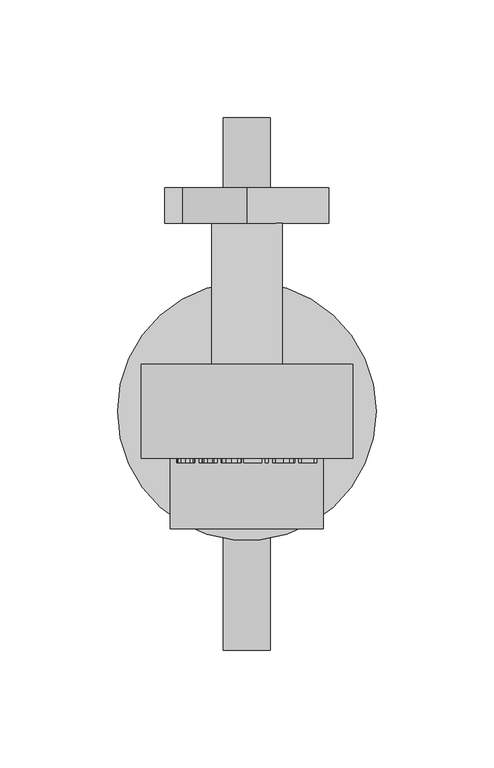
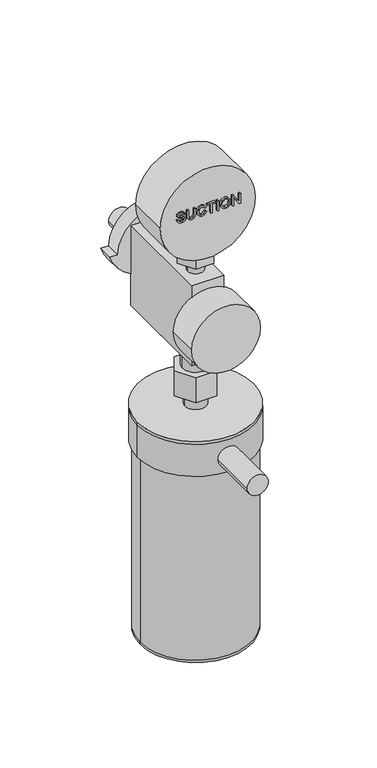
"""IFC4 building model written with IfcOpenShell, lengths in millimetres: proxy geometry, BIMHealth-Flowmeter_Suction-LOD2A-v1 : BIMHealth-Flowmeter_Suction-LOD2A-v1."""

from ifc_helpers import new_model, si_unit, point, frame, frame_2d, origin, place, context, project, spatial, polyline, circle_curve, trimmed, segment, composite_curve, outline, extrude, source, transform, mapped, element, save
from ifc_brep_helpers import plane_surface, cylinder_surface, revolved_surface, advanced_brep


def generic_models_1c4e6ef4(model_context):
    return source(origin(), model_context, "Body", "SolidModel", [
        extrude(outline(polyline([(1311.533621, -29.8591458), (1309.6538134, -29.3278958), (1308.408621, -27.9372708), (1307.9951595, -25.7389535), (1308.378573, -23.8771746), (1309.4530922, -22.6079439), (1310.925448, -22.1668381), (1312.3172749, -22.5502515), (1313.314871, -23.7413573), (1313.9326595, -25.9192419), (1314.6201595, -27.9288573), (1315.4735249, -28.3206842), (1316.4951595, -27.7677996), (1316.9182364, -26.0057804), (1316.4903518, -24.2485689), (1315.2259287, -23.5514535), (1315.2259287, -22.3206842), (1316.7667941, -22.808665), (1317.7980441, -24.1067419), (1318.1490057, -26.0538573), (1317.8136691, -27.8783765), (1316.830496, -29.1247708), (1315.4374672, -29.5514535), (1314.2139095, -29.2065015), (1313.2980441, -28.1596265), (1312.691073, -26.23054), (1312.221121, -24.4384727), (1311.6622268, -23.6019342), (1310.894198, -23.3976073), (1310.0684768, -23.6704439), (1309.4506884, -24.5009727), (1309.2259287, -25.7870304), (1309.5228037, -27.2629919), (1310.3016499, -28.2317419), (1311.533621, -28.6283765), (1311.533621, -29.8591458)])), frame((0.0, -2.0, 0.0), z_axis=(0.0, 1.0, 0.0), x_axis=(0.0, 0.0, 1.0)), (0.0, 0.0, 1.0), 2.0),
        extrude(outline(polyline([(1317.9951595, -13.8591458), (1312.3581403, -13.8591458), (1309.8725634, -14.4817419), (1309.2259287, -16.5658765), (1309.5528518, -18.0129919), (1310.4819384, -18.8471265), (1312.3581403, -19.089915), (1317.9951595, -19.089915), (1317.9951595, -20.3206842), (1312.314871, -20.3206842), (1309.8497268, -19.9468862), (1308.471121, -18.69929), (1307.9951595, -16.4504919), (1308.5420345, -14.1668381), (1309.9603037, -12.9625112), (1312.314871, -12.6283765), (1317.9951595, -12.6283765), (1317.9951595, -13.8591458)])), frame((0.0, -2.0, 0.0), z_axis=(0.0, 1.0, 0.0), x_axis=(0.0, 0.0, 1.0)), (0.0, 0.0, 1.0), 2.0),
        extrude(outline(polyline([(1311.6490057, -3.5514535), (1309.8365057, -4.5959246), (1309.2259287, -6.4793381), (1309.674246, -8.1776554), (1311.0288134, -9.3339054), (1313.1490057, -9.7052996), (1314.9783326, -9.3915977), (1316.3917941, -8.3038573), (1316.9182364, -6.3783765), (1316.4434768, -4.714915), (1314.9302557, -3.7052996), (1315.2235249, -2.4745304), (1317.3821787, -3.8651554), (1318.1490057, -6.3302996), (1317.5564576, -8.6956842), (1315.8220826, -10.3531362), (1313.1466018, -10.9360689), (1310.5143903, -10.4204439), (1308.6417941, -8.91804), (1307.9951595, -6.3567419), (1308.8497268, -3.7798189), (1311.331698, -2.3206842), (1311.6490057, -3.5514535)])), frame((0.0, -2.0, 0.0), z_axis=(0.0, 1.0, 0.0), x_axis=(0.0, 0.0, 1.0)), (0.0, 0.0, 1.0), 2.0),
        extrude(outline(polyline([(1308.1490057, 1.8331619), (1308.1490057, 3.0639311), (1316.7643903, 3.0639311), (1316.7643903, 6.2947004), (1317.9951595, 6.2947004), (1317.9951595, -1.3976073), (1316.7643903, -1.3976073), (1316.7643903, 1.8331619), (1308.1490057, 1.8331619)])), frame((0.0, -2.0, 0.0), z_axis=(0.0, 1.0, 0.0), x_axis=(0.0, 0.0, 1.0)), (0.0, 0.0, 1.0), 2.0),
        extrude(outline(polyline([(9.0639311, -2.0), (7.8331619, -2.0), (7.8331619, 0.0), (9.0639311, 0.0), (9.0639311, -2.0)])), frame((0.0, 0.0, 1308.1490057), z_axis=(0.0, 0.0, 1.0), x_axis=(1.0, 0.0, 0.0)), (0.0, 0.0, 1.0), 9.8461538),
        extrude(outline(polyline([(1312.9422749, 11.0639311), (1310.4915537, 11.6264311), (1308.6646307, 13.2802773), (1307.9951595, 15.7562388), (1308.6009287, 18.1396523), (1310.3845826, 19.8463831), (1313.0552557, 20.4485465), (1315.689871, 19.8764311), (1317.4999672, 18.2129696), (1318.1490057, 15.7634504), (1316.7667941, 12.3764311), (1312.9422749, 11.0639311)]), holes=[polyline([(1312.9302557, 12.2947004), (1315.9987653, 13.3211427), (1316.9182364, 15.7706619), (1316.441073, 17.5771523), (1315.096121, 18.7995081), (1313.064871, 19.2177773), (1310.2259287, 18.2406138), (1309.2259287, 15.7490273), (1310.2163134, 13.2790754), (1312.9302557, 12.2947004)])]), frame((0.0, -2.0, 0.0), z_axis=(0.0, 1.0, 0.0), x_axis=(0.0, 0.0, 1.0)), (0.0, 0.0, 1.0), 2.0),
        extrude(outline(polyline([(1308.1490057, 22.1408542), (1308.1490057, 23.3716235), (1315.9518903, 23.3716235), (1308.1490057, 28.5158542), (1308.1490057, 29.8331619), (1317.9951595, 29.8331619), (1317.9951595, 28.6023927), (1310.1946787, 28.6023927), (1317.9951595, 23.4581619), (1317.9951595, 22.1408542), (1308.1490057, 22.1408542)])), frame((0.0, -2.0, 0.0), z_axis=(0.0, 1.0, 0.0), x_axis=(0.0, 0.0, 1.0)), (0.0, 0.0, 1.0), 2.0),
        extrude(outline(composite_curve([segment(trimmed(circle_curve(frame_2d((1215.0, 0.0)), 10.0), [point((1215.0, 10.0))], [point((1215.0, -10.0))], False, "CARTESIAN"), True, "CONTINUOUS"), segment(trimmed(circle_curve(frame_2d((1215.0, 0.0)), 10.0), [point((1215.0, -10.0))], [point((1215.0, 10.0))], False, "CARTESIAN"), True, "CONTINUOUS")], self_intersect=False)), frame((0.0, 115.0, 0.0), z_axis=(0.0, 1.0, 0.0), x_axis=(0.0, 0.0, 1.0)), (0.0, 0.0, 1.0), 29.9187419),
        extrude(outline(composite_curve([segment(trimmed(circle_curve(frame_2d((1085.2946701, 0.0)), 10.0), [point((1085.2946701, 10.0))], [point((1085.2946701, -10.0))], False, "CARTESIAN"), True, "CONTINUOUS"), segment(trimmed(circle_curve(frame_2d((1085.2946701, 0.0)), 10.0), [point((1085.2946701, -10.0))], [point((1085.2946701, 10.0))], False, "CARTESIAN"), True, "CONTINUOUS")], self_intersect=False)), frame((0.0, -81.7607119, 0.0), z_axis=(0.0, 1.0, 0.0), x_axis=(0.0, 0.0, 1.0)), (0.0, 0.0, 1.0), 81.7607119),
        advanced_brep(
        [(-55.0, 20.0, 1105.6199974), (55.0, 20.0, 1105.6199974), (52.5, 20.0, 1102.8021553), (-52.5, 20.0, 1102.8021553), (-55.0, 20.0, 1102.8021553), (55.0, 20.0, 1102.8021553), (-55.0, 20.0, 1070.6762911), (55.0, 20.0, 1070.6762911), (52.5, 20.0, 1070.6762911), (-52.5, 20.0, 1070.6762911)],
        [
            (0, 1, circle_curve(frame((0.0, 20.0, 1105.6199974), z_axis=(0.0, 0.0, 1.0), x_axis=(1.0, 0.0, 0.0)), 55.0)),
            (1, 0, circle_curve(frame((0.0, 20.0, 1105.6199974), z_axis=(0.0, 0.0, 1.0), x_axis=(1.0, 0.0, 0.0)), 55.0)),
            (2, 3, circle_curve(frame((0.0, 20.0, 1102.8021553), z_axis=(0.0, 0.0, -1.0), x_axis=(1.0, 0.0, 0.0)), 52.5)),
            (3, 2, circle_curve(frame((0.0, 20.0, 1102.8021553), z_axis=(0.0, 0.0, -1.0), x_axis=(1.0, 0.0, 0.0)), 52.5)),
            (0, 4),
            (4, 5, circle_curve(frame((0.0, 20.0, 1102.8021553), z_axis=(0.0, 0.0, 1.0), x_axis=(1.0, 0.0, 0.0)), 55.0)),
            (5, 1),
            (5, 4, circle_curve(frame((0.0, 20.0, 1102.8021553), z_axis=(0.0, 0.0, 1.0), x_axis=(1.0, 0.0, 0.0)), 55.0)),
            (6, 7, circle_curve(frame((0.0, 20.0, 1070.6762911), z_axis=(0.0, 0.0, -1.0), x_axis=(1.0, 0.0, 0.0)), 55.0)),
            (7, 6, circle_curve(frame((0.0, 20.0, 1070.6762911), z_axis=(0.0, 0.0, -1.0), x_axis=(1.0, 0.0, 0.0)), 55.0)),
            (8, 9, circle_curve(frame((0.0, 20.0, 1070.6762911), z_axis=(0.0, 0.0, 1.0), x_axis=(1.0, 0.0, 0.0)), 52.5)),
            (9, 8, circle_curve(frame((0.0, 20.0, 1070.6762911), z_axis=(0.0, 0.0, 1.0), x_axis=(1.0, 0.0, 0.0)), 52.5)),
            (7, 5),
            (4, 6),
            (9, 3),
            (2, 8),
        ],
        [
            plane_surface(frame((55.0, 20.0, 1105.6199974), z_axis=(0.0, 0.0, 1.0), x_axis=(0.0, 1.0, 0.0))),
            plane_surface(frame((55.0, 20.0, 1102.8021553), z_axis=(0.0, 0.0, -1.0), x_axis=(0.0, -1.0, 0.0))),
            cylinder_surface(frame((0.0, 20.0, 1102.8021553), z_axis=(0.0, 0.0, 1.0), x_axis=(1.0, 0.0, 0.0)), 55.0),
            plane_surface(frame((55.0, 20.0, 1070.6762911), z_axis=(0.0, 0.0, -1.0), x_axis=(0.0, -1.0, 0.0))),
            cylinder_surface(frame((0.0, 20.0, 1070.6762911), z_axis=(0.0, 0.0, 1.0), x_axis=(1.0, 0.0, 0.0)), 55.0),
            revolved_surface(polyline([(52.5, 20.0, 1070.6762911), (52.5, 20.0, 1102.8021553)]), (0.0, 20.0, 0.0), (0.0, 0.0, -1.0)),
        ],
        [
            (0, [[1, 2]]),
            (1, [[3, 4]]),
            (2, [[-1, 5, 6, 7]]),
            (2, [[-2, -7, 8, -5]]),
            (3, [[9, 10], [11, 12]]),
            (4, [[-10, 13, -6, 14]]),
            (4, [[-9, -14, -8, -13]]),
            (5, [[-12, 15, -3, 16]]),
            (5, [[-11, -16, -4, -15]]),
        ],
    ),
        advanced_brep(
        [(-52.5, 20.0, 882.8021553), (52.5, 20.0, 882.8021553), (50.0, 20.0, 885.2126899), (-50.0, 20.0, 885.2126899), (-52.5, 20.0, 1100.4221861), (52.5, 20.0, 1100.4221861), (-50.0, 20.0, 1100.4221861), (50.0, 20.0, 1100.4221861), (52.5, 20.0, 885.2126899), (-52.5, 20.0, 885.2126899)],
        [
            (0, 1, circle_curve(frame((0.0, 20.0, 882.8021553), z_axis=(0.0, 0.0, -1.0), x_axis=(1.0, 0.0, 0.0)), 52.5)),
            (1, 0, circle_curve(frame((0.0, 20.0, 882.8021553), z_axis=(0.0, 0.0, -1.0), x_axis=(1.0, 0.0, 0.0)), 52.5)),
            (2, 3, circle_curve(frame((0.0, 20.0, 885.2126899), z_axis=(0.0, 0.0, 1.0), x_axis=(1.0, 0.0, 0.0)), 50.0)),
            (3, 2, circle_curve(frame((0.0, 20.0, 885.2126899), z_axis=(0.0, 0.0, 1.0), x_axis=(1.0, 0.0, 0.0)), 50.0)),
            (4, 5, circle_curve(frame((0.0, 20.0, 1100.4221861), z_axis=(0.0, 0.0, 1.0), x_axis=(1.0, 0.0, 0.0)), 52.5)),
            (5, 4, circle_curve(frame((0.0, 20.0, 1100.4221861), z_axis=(0.0, 0.0, 1.0), x_axis=(1.0, 0.0, 0.0)), 52.5)),
            (6, 7, circle_curve(frame((0.0, 20.0, 1100.4221861), z_axis=(0.0, 0.0, -1.0), x_axis=(1.0, 0.0, 0.0)), 50.0)),
            (7, 6, circle_curve(frame((0.0, 20.0, 1100.4221861), z_axis=(0.0, 0.0, -1.0), x_axis=(1.0, 0.0, 0.0)), 50.0)),
            (5, 8),
            (8, 9, circle_curve(frame((0.0, 20.0, 885.2126899), z_axis=(0.0, 0.0, 1.0), x_axis=(1.0, 0.0, 0.0)), 52.5)),
            (9, 4),
            (9, 8, circle_curve(frame((0.0, 20.0, 885.2126899), z_axis=(0.0, 0.0, 1.0), x_axis=(1.0, 0.0, 0.0)), 52.5)),
            (6, 3),
            (2, 7),
            (1, 8),
            (9, 0),
        ],
        [
            plane_surface(frame((52.5, 20.0, 882.8021553), z_axis=(0.0, 0.0, -1.0), x_axis=(0.0, -1.0, 0.0))),
            plane_surface(frame((52.5, 20.0, 885.2126899), z_axis=(0.0, 0.0, 1.0), x_axis=(0.0, 1.0, 0.0))),
            plane_surface(frame((52.5, 20.0, 1100.4221861), z_axis=(0.0, 0.0, 1.0), x_axis=(0.0, 1.0, 0.0))),
            cylinder_surface(frame((0.0, 20.0, 882.8021553), z_axis=(0.0, 0.0, 1.0), x_axis=(1.0, 0.0, 0.0)), 52.5),
            revolved_surface(polyline([(50.0, 20.0, 885.2126899), (50.0, 20.0, 1100.4221861)]), (0.0, 20.0, 0.0), (0.0, 0.0, -1.0)),
        ],
        [
            (0, [[1, 2]]),
            (1, [[3, 4]]),
            (2, [[5, 6], [7, 8]]),
            (3, [[-6, 9, 10, 11]]),
            (3, [[-5, -11, 12, -9]]),
            (4, [[-7, 13, -3, 14]]),
            (4, [[-8, -14, -4, -13]]),
            (3, [[-2, 15, -12, 16]]),
            (3, [[-1, -16, -10, -15]]),
        ],
    ),
        extrude(outline(composite_curve([segment(trimmed(circle_curve(frame_2d((1204.401832, -1.6248415)), 37.9936724), [point((1215.0, 34.8607444))], [point((1242.3607444, 0.0))], False, "CARTESIAN"), True, "CONTINUOUS"), segment(polyline([(1242.3607444, 0.0), (1249.8607444, 0.0)]), True, "CONTINUOUS"), segment(trimmed(circle_curve(frame_2d((1213.3751585, 10.598168)), 37.9936724), [point((1249.8607444, 0.0))], [point((1215.0, -27.3607444))], False, "CARTESIAN"), True, "CONTINUOUS"), segment(polyline([(1215.0, -27.3607444), (1215.0, -34.8607444)]), True, "CONTINUOUS"), segment(trimmed(circle_curve(frame_2d((1225.598168, 1.6248415)), 37.9936724), [point((1215.0, -34.8607444))], [point((1187.6392556, 0.0))], False, "CARTESIAN"), True, "CONTINUOUS"), segment(polyline([(1187.6392556, 0.0), (1180.1392556, 0.0)]), True, "CONTINUOUS"), segment(trimmed(circle_curve(frame_2d((1216.6248415, -10.598168)), 37.9936724), [point((1180.1392556, 0.0))], [point((1215.0, 27.3607444))], False, "CARTESIAN"), True, "CONTINUOUS"), segment(polyline([(1215.0, 27.3607444), (1215.0, 34.8607444)]), True, "CONTINUOUS")], self_intersect=False)), frame((0.0, 100.0, 0.0), z_axis=(0.0, 1.0, 0.0), x_axis=(0.0, 0.0, 1.0)), (0.0, 0.0, 1.0), 15.0),
        extrude(outline(composite_curve([segment(trimmed(circle_curve(frame_2d((1307.6114455, 0.0)), 45.0), [point((1307.6114455, -45.0))], [point((1307.6114455, 45.0))], False, "CARTESIAN"), True, "CONTINUOUS"), segment(trimmed(circle_curve(frame_2d((1307.6114455, 0.0)), 45.0), [point((1307.6114455, 45.0))], [point((1307.6114455, -45.0))], False, "CARTESIAN"), True, "CONTINUOUS")], self_intersect=False)), frame((0.0, 0.0, 0.0), z_axis=(0.0, 1.0, 0.0), x_axis=(0.0, 0.0, 1.0)), (0.0, 0.0, 1.0), 40.0),
        extrude(outline(polyline([(8.5566243, 34.8205081), (17.1132487, 20.0), (8.5566243, 5.1794919), (-8.5566243, 5.1794919), (-17.1132487, 20.0), (-8.5566243, 34.8205081), (8.5566243, 34.8205081)])), frame((0.0, 0.0, 1251.3057227), z_axis=(0.0, 0.0, 1.0), x_axis=(1.0, 0.0, 0.0)), (0.0, 0.0, 1.0), 25.0),
        extrude(outline(composite_curve([segment(trimmed(circle_curve(frame_2d((0.0, 20.0)), 7.5), [point((-7.5, 20.0))], [point((7.5, 20.0))], False, "CARTESIAN"), True, "CONTINUOUS"), segment(trimmed(circle_curve(frame_2d((0.0, 20.0)), 7.5), [point((7.5, 20.0))], [point((-7.5, 20.0))], False, "CARTESIAN"), True, "CONTINUOUS")], self_intersect=False)), frame((0.0, 0.0, 1240.0), z_axis=(0.0, 0.0, 1.0), x_axis=(1.0, 0.0, 0.0)), (0.0, 0.0, 1.0), 11.3057227),
        extrude(outline(composite_curve([segment(trimmed(circle_curve(frame_2d((0.0, 20.0)), 10.0), [point((-10.0, 20.0))], [point((10.0, 20.0))], False, "CARTESIAN"), True, "CONTINUOUS"), segment(trimmed(circle_curve(frame_2d((0.0, 20.0)), 10.0), [point((10.0, 20.0))], [point((-10.0, 20.0))], False, "CARTESIAN"), True, "CONTINUOUS")], self_intersect=False)), frame((0.0, 0.0, 1105.6199974), z_axis=(0.0, 0.0, 1.0), x_axis=(1.0, 0.0, 0.0)), (0.0, 0.0, 1.0), 14.3800026),
        extrude(outline(composite_curve([segment(trimmed(circle_curve(frame_2d((0.0, 20.0)), 12.5), [point((-12.5, 20.0))], [point((12.5, 20.0))], False, "CARTESIAN"), True, "CONTINUOUS"), segment(trimmed(circle_curve(frame_2d((0.0, 20.0)), 12.5), [point((12.5, 20.0))], [point((-12.5, 20.0))], False, "CARTESIAN"), True, "CONTINUOUS")], self_intersect=False)), frame((0.0, 0.0, 1145.0), z_axis=(0.0, 0.0, 1.0), x_axis=(1.0, 0.0, 0.0)), (0.0, 0.0, 1.0), 15.0),
        extrude(outline(polyline([(10.0, 37.3205081), (20.0, 20.0), (10.0, 2.6794919), (-10.0, 2.6794919), (-20.0, 20.0), (-10.0, 37.3205081), (10.0, 37.3205081)])), frame((0.0, 0.0, 1120.0), z_axis=(0.0, 0.0, 1.0), x_axis=(1.0, 0.0, 0.0)), (0.0, 0.0, 1.0), 25.0),
        extrude(outline(polyline([(15.0, 0.0), (-15.0, 0.0), (-15.0, 100.0), (15.0, 100.0), (15.0, 0.0)])), frame((0.0, 0.0, 1160.0), z_axis=(0.0, 0.0, 1.0), x_axis=(1.0, 0.0, 0.0)), (0.0, 0.0, 1.0), 80.0),
        extrude(outline(composite_curve([segment(trimmed(circle_curve(frame_2d((1200.0, 0.0)), 32.5), [point((1200.0, -32.5))], [point((1200.0, 32.5))], False, "CARTESIAN"), True, "CONTINUOUS"), segment(trimmed(circle_curve(frame_2d((1200.0, 0.0)), 32.5), [point((1200.0, 32.5))], [point((1200.0, -32.5))], False, "CARTESIAN"), True, "CONTINUOUS")], self_intersect=False)), frame((0.0, -30.0, 0.0), z_axis=(0.0, 1.0, 0.0), x_axis=(0.0, 0.0, 1.0)), (0.0, 0.0, 1.0), 30.0),
    ])


if __name__ == "__main__":
    model = new_model("IFC4")
    model_context = context("Model", 3, world=origin())
    ifc_project = project(units=[si_unit("LENGTHUNIT", "METRE", prefix="MILLI")], contexts=[model_context])
    site = spatial("IfcSite", under=ifc_project)
    building = spatial("IfcBuilding", under=site)
    placement = place(None, origin())
    generic_models_shape = generic_models_1c4e6ef4(model_context)
    element("IfcBuildingElementProxy", 1, Name="BIMHealth-Flowmeter_Suction-LOD2A-v1 : BIMHealth-Flowmeter_Suction-LOD2A-v1", ObjectType="BIMHealth-Flowmeter_Suction-LOD2A-v1 : BIMHealth-Flowmeter_Suction-LOD2A-v1", at=placement, inside=building, context=model_context, shape_type="MappedRepresentation", body=[
        mapped(generic_models_shape, transform((0.0, 0.0, 0.0), x_axis=(1.0, 0.0, 0.0), y_axis=(0.0, 1.0, 0.0), z_axis=(0.0, 0.0, 1.0))),
    ])
    save(model, "model.ifc")
